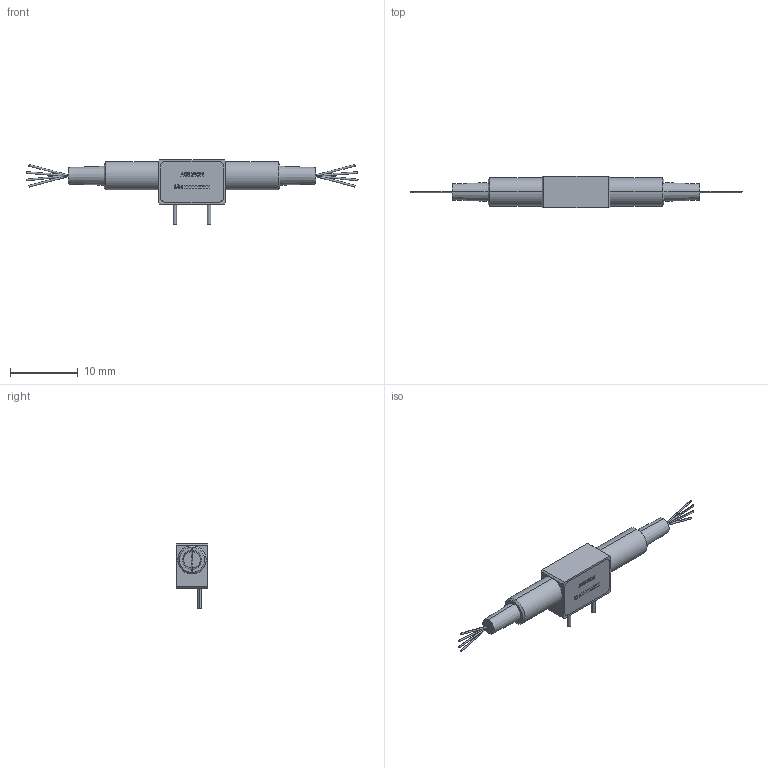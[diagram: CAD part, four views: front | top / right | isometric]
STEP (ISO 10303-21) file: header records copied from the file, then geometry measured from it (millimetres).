
FILE_DESCRIPTION (( 'STEP AP203' ), '1' );
FILE_NAME ('MEMS Ultra-Mini Full 2x2 Switch package 2.STEP', '2024-07-12T21:34:10', ( '' ), ( '' ), 'SwSTEP 2.0', 'SolidWorks 2018', '' );
FILE_SCHEMA (( 'CONFIG_CONTROL_DESIGN' ));
Length unit declared in the file: millimetre
Products named in the file (1): MEMS Ultra-Mini Full 2x2  Switch package 2
Bounding box: 49.1 x 4.6 x 9.6 mm (x, y, z)
Volume: 584.2 mm3; surface area: 621.5 mm2
Topology: 1 solids, 1 shells, 305 faces, 797 edges, 528 vertices
Faces by surface type: plane 228, bspline 45, cylinder 24, cone 8
Entity records: 11766 total; most frequent: CARTESIAN_POINT 4496, ORIENTED_EDGE 1594, DIRECTION 1257, EDGE_CURVE 797, LINE 639, VECTOR 639, VERTEX_POINT 528, EDGE_LOOP 339
